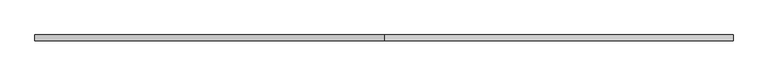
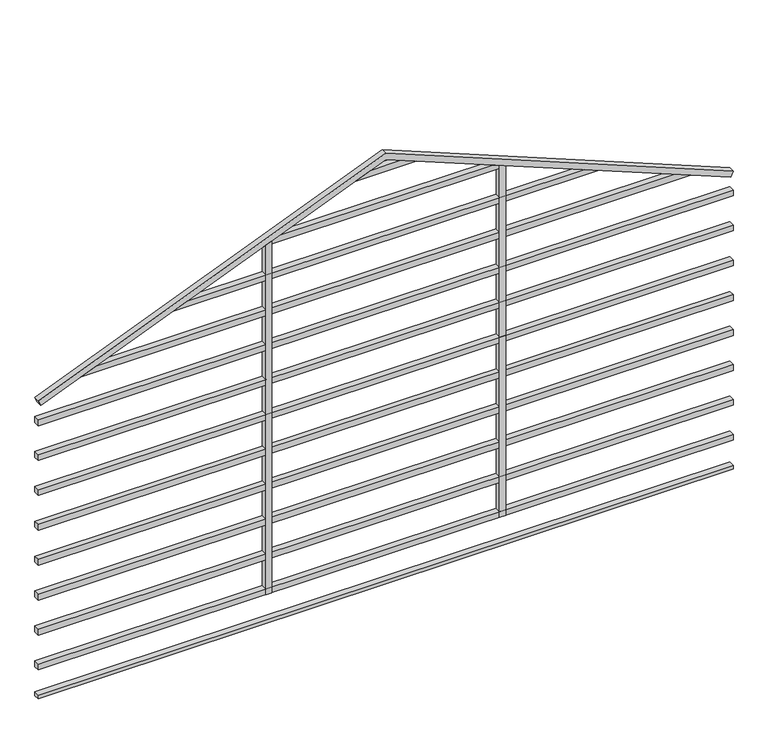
"""IFC4 building model written with IfcOpenShell, lengths in millimetres: proxy geometry, 栅格 : 栅格."""

from ifc_helpers import new_model, si_unit, frame, origin, place, context, project, spatial, polyline, outline, extrude, source, transform, mapped, element, save


def specialty_equipment_643cab9b(model_context):
    return source(origin(), model_context, "Body", "SweptSolid", [
        extrude(outline(polyline([(4165.6067763, -6317.2164659), (4193.422292, -6305.9782681), (4880.2668759, -8005.9782681), (4193.422292, -9705.9782681), (4165.6067763, -9694.7400703), (4847.9108336, -8005.9782681), (4165.6067763, -6317.2164659)])), frame((0.0, 3777.8110391, 0.0), z_axis=(0.0, 1.0, 0.0), x_axis=(0.0, 0.0, 1.0)), (0.0, 0.0, 1.0), 29.0304564),
        extrude(outline(polyline([(2800.0, -7419.3116015), (4610.8821144, -7419.3116015), (4623.0029012, -7449.3116015), (2800.0, -7449.3116015), (2800.0, -7419.3116015)])), frame((0.0, 3777.8110391, 0.0), z_axis=(0.0, 1.0, 0.0), x_axis=(0.0, 0.0, 1.0)), (0.0, 0.0, 1.0), 29.0304564),
        extrude(outline(polyline([(2800.0, -8562.6449348), (4623.0029012, -8562.6449348), (4610.8821144, -8592.6449348), (2800.0, -8592.6449348), (2800.0, -8562.6449348)])), frame((0.0, 3777.8110391, 0.0), z_axis=(0.0, 1.0, 0.0), x_axis=(0.0, 0.0, 1.0)), (0.0, 0.0, 1.0), 29.0304564),
        extrude(outline(polyline([(-9705.9782681, 3806.8414955), (-6305.9782681, 3806.8414955), (-6305.9782681, 3777.8110391), (-9705.9782681, 3777.8110391), (-9705.9782681, 3806.8414955)])), frame((0.0, 0.0, 2650.0), z_axis=(0.0, 0.0, 1.0), x_axis=(1.0, 0.0, 0.0)), (0.0, 0.0, 1.0), 20.0),
        extrude(outline(polyline([(-9705.9782681, 3806.8414955), (-6305.9782681, 3806.8414955), (-6305.9782681, 3777.8110391), (-9705.9782681, 3777.8110391), (-9705.9782681, 3806.8414955)])), frame((0.0, 0.0, 2800.0), z_axis=(0.0, 0.0, 1.0), x_axis=(1.0, 0.0, 0.0)), (0.0, 0.0, 1.0), 30.0),
        extrude(outline(polyline([(-9705.9782681, 3806.8414955), (-6305.9782681, 3806.8414955), (-6305.9782681, 3777.8110391), (-9705.9782681, 3777.8110391), (-9705.9782681, 3806.8414955)])), frame((0.0, 0.0, 2980.6451613), z_axis=(0.0, 0.0, 1.0), x_axis=(1.0, 0.0, 0.0)), (0.0, 0.0, 1.0), 30.0),
        extrude(outline(polyline([(-9705.9782681, 3806.8414955), (-6305.9782681, 3806.8414955), (-6305.9782681, 3777.8110391), (-9705.9782681, 3777.8110391), (-9705.9782681, 3806.8414955)])), frame((0.0, 0.0, 3161.2903226), z_axis=(0.0, 0.0, 1.0), x_axis=(1.0, 0.0, 0.0)), (0.0, 0.0, 1.0), 30.0),
        extrude(outline(polyline([(-9705.9782681, 3806.8414955), (-6305.9782681, 3806.8414955), (-6305.9782681, 3777.8110391), (-9705.9782681, 3777.8110391), (-9705.9782681, 3806.8414955)])), frame((0.0, 0.0, 3341.9354839), z_axis=(0.0, 0.0, 1.0), x_axis=(1.0, 0.0, 0.0)), (0.0, 0.0, 1.0), 30.0),
        extrude(outline(polyline([(-9705.9782681, 3806.8414955), (-6305.9782681, 3806.8414955), (-6305.9782681, 3777.8110391), (-9705.9782681, 3777.8110391), (-9705.9782681, 3806.8414955)])), frame((0.0, 0.0, 3522.5806452), z_axis=(0.0, 0.0, 1.0), x_axis=(1.0, 0.0, 0.0)), (0.0, 0.0, 1.0), 30.0),
        extrude(outline(polyline([(-9705.9782681, 3806.8414955), (-6305.9782681, 3806.8414955), (-6305.9782681, 3777.8110391), (-9705.9782681, 3777.8110391), (-9705.9782681, 3806.8414955)])), frame((0.0, 0.0, 3703.2258065), z_axis=(0.0, 0.0, 1.0), x_axis=(1.0, 0.0, 0.0)), (0.0, 0.0, 1.0), 30.0),
        extrude(outline(polyline([(-9705.9782681, 3806.8414955), (-6305.9782681, 3806.8414955), (-6305.9782681, 3777.8110391), (-9705.9782681, 3777.8110391), (-9705.9782681, 3806.8414955)])), frame((0.0, 0.0, 3883.8709677), z_axis=(0.0, 0.0, 1.0), x_axis=(1.0, 0.0, 0.0)), (0.0, 0.0, 1.0), 30.0),
        extrude(outline(polyline([(-9705.9782681, 3806.8414955), (-6305.9782681, 3806.8414955), (-6305.9782681, 3777.8110391), (-9705.9782681, 3777.8110391), (-9705.9782681, 3806.8414955)])), frame((0.0, 0.0, 4064.516129), z_axis=(0.0, 0.0, 1.0), x_axis=(1.0, 0.0, 0.0)), (0.0, 0.0, 1.0), 30.0),
        extrude(outline(polyline([(4245.1612903, -9497.8357386), (4245.1612903, -6514.1207977), (4275.1612903, -6588.3734033), (4275.1612903, -9423.583133), (4245.1612903, -9497.8357386)])), frame((0.0, 3777.8110391, 0.0), z_axis=(0.0, 1.0, 0.0), x_axis=(0.0, 0.0, 1.0)), (0.0, 0.0, 1.0), 29.0304564),
        extrude(outline(polyline([(4425.8064516, -9050.7232748), (4425.8064516, -6961.2332615), (4455.8064516, -7035.4858671), (4455.8064516, -8976.4706692), (4425.8064516, -9050.7232748)])), frame((0.0, 3777.8110391, 0.0), z_axis=(0.0, 1.0, 0.0), x_axis=(0.0, 0.0, 1.0)), (0.0, 0.0, 1.0), 29.0304564),
        extrude(outline(polyline([(4787.0967742, -8156.4983471), (4787.0967742, -7855.4581892), (4817.0967742, -7929.7107948), (4817.0967742, -8082.2457415), (4787.0967742, -8156.4983471)])), frame((0.0, 3777.8110391, 0.0), z_axis=(0.0, 1.0, 0.0), x_axis=(0.0, 0.0, 1.0)), (0.0, 0.0, 1.0), 29.0304564),
        extrude(outline(polyline([(4636.4516129, -7482.598331), (4636.4516129, -8529.3582053), (4606.4516129, -8603.6108109), (4606.4516129, -7408.3457254), (4636.4516129, -7482.598331)])), frame((0.0, 3777.8110391, 0.0), z_axis=(0.0, 1.0, 0.0), x_axis=(0.0, 0.0, 1.0)), (0.0, 0.0, 1.0), 29.0304564),
    ])


if __name__ == "__main__":
    model = new_model("IFC4")
    model_context = context("Model", 3, world=origin())
    ifc_project = project(units=[si_unit("LENGTHUNIT", "METRE", prefix="MILLI")], contexts=[model_context])
    site = spatial("IfcSite", under=ifc_project)
    building = spatial("IfcBuilding", under=site)
    placement = place(None, origin())
    specialty_equipment_shape = specialty_equipment_643cab9b(model_context)
    element("IfcBuildingElementProxy", 1, Name="栅格 : 栅格", ObjectType="栅格 : 栅格", at=placement, inside=building, context=model_context, shape_type="MappedRepresentation", body=[
        mapped(specialty_equipment_shape, transform((0.0, 0.0, 0.0), x_axis=(1.0, 0.0, 0.0), y_axis=(0.0, 1.0, 0.0), z_axis=(0.0, 0.0, 1.0))),
    ])
    save(model, "model.ifc")
